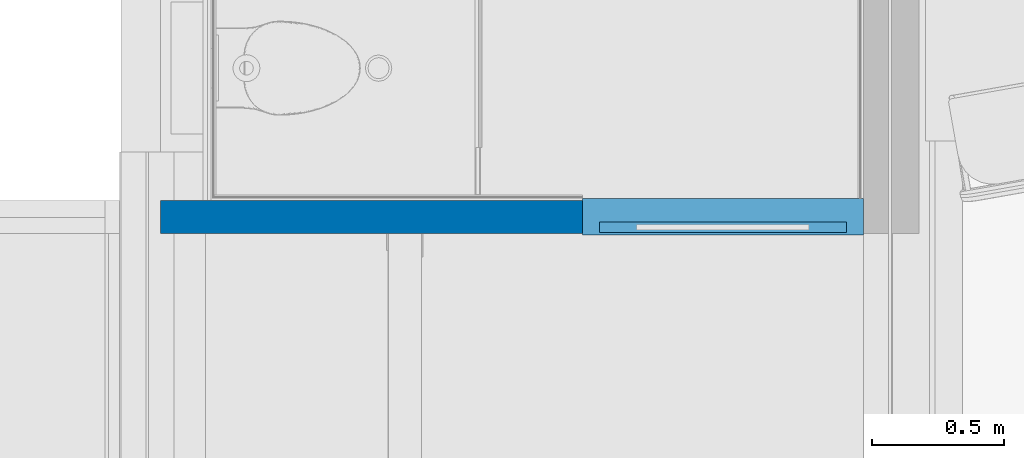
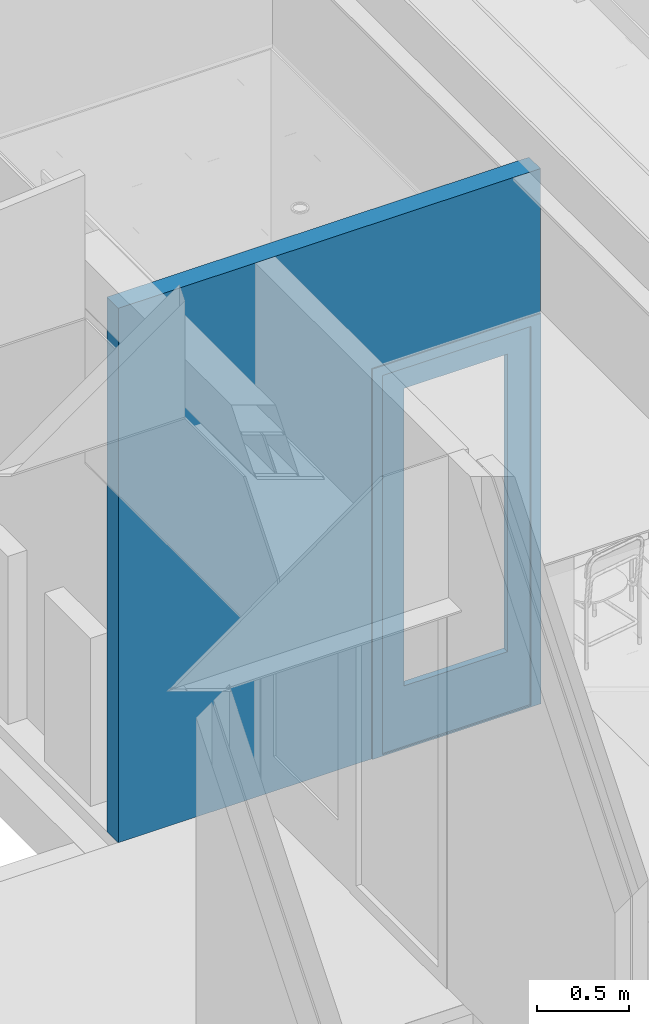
# One storey, part 4 of 260: 2 building element parts, 1 wall, 1 opening, 1 element without a shape of its own.
"""IFC2X3 building model written with IfcOpenShell, lengths in millimetres."""

import ifcopenshell
import ifcopenshell.guid

model = None  # the IFC model being written
_history = None  # IfcOwnerHistory: only IFC2X3 demands one
_inside = {}  # id of a spatial element -> (the spatial element, [elements in it])
_under = {}  # id of a project, library or spatial element -> (it, [spatial elements below it])
_declared = {}  # id of a project -> (the project, [libraries it declares])
_typed = {}  # id of a type object -> (the type object, [elements of that type])
_made_of = {}  # id of a material, layer set ... -> (it, [elements and type objects made of it])


def new_model(schema):
    """Start an empty IFC model of exactly this schema.

    Asked for "IFC4X3", IfcOpenShell would pick the latest addendum, in which some entities
    have other attributes; the version numbers below select the first issue.
    IFC2X3 requires an IfcOwnerHistory on every rooted entity: one is made here for all.
    """
    global model, _history
    if schema == "IFC4X3":
        model = ifcopenshell.file(schema_version=(4, 3, 0, 0))
    else:
        model = ifcopenshell.file(schema=schema)
    _inside.clear()
    _under.clear()
    _declared.clear()
    _typed.clear()
    _made_of.clear()
    _history = None
    if model.schema == "IFC2X3":
        org = make("IfcOrganization", Name="unknown")
        user = make(
            "IfcPersonAndOrganization",
            ThePerson=make("IfcPerson", FamilyName="unknown"),
            TheOrganization=org,
        )
        app = make(
            "IfcApplication",
            ApplicationDeveloper=org,
            Version="unknown",
            ApplicationFullName="unknown",
            ApplicationIdentifier="unknown",
        )
        _history = make(
            "IfcOwnerHistory",
            OwningUser=user,
            OwningApplication=app,
            ChangeAction="ADDED",
            CreationDate=0,
        )
    return model


def make(cls, **values):
    """One entity of the class cls with the attributes given. An attribute that is None is left unset."""
    return model.create_entity(
        cls, **{name: value for name, value in values.items() if value is not None}
    )


def entity(cls, *values):
    """Any entity or typed value of the class cls, its attributes in the order of the schema. None: left unset."""
    e = model.create_entity(cls)
    for i, value in enumerate(values):
        if value is not None:
            e[i] = value
    return e


def rooted(cls, **values):
    """An entity with a GlobalId (a new one), such as an element, a storey or a relation."""
    return make(cls, GlobalId=ifcopenshell.guid.new(), OwnerHistory=_history, **values)


def si_unit(unit_type, name, prefix=None):
    """IfcSIUnit, for example si_unit("LENGTHUNIT", "METRE", prefix="MILLI")."""
    return make("IfcSIUnit", UnitType=unit_type, Prefix=prefix, Name=name)


def converted_unit(unit_type, name, factor, base, dimensions=None, offset=None):
    """IfcConversionBasedUnit, such as the inch: factor (a typed value) times the base unit."""
    return make(
        "IfcConversionBasedUnit"
        if offset is None
        else "IfcConversionBasedUnitWithOffset",
        ConversionOffset=offset,
        Dimensions=None
        if dimensions is None
        else entity("IfcDimensionalExponents", *dimensions),
        UnitType=unit_type,
        Name=name,
        ConversionFactor=make(
            "IfcMeasureWithUnit", ValueComponent=factor, UnitComponent=base
        ),
    )


def derived_unit(unit_type, elements):
    """IfcDerivedUnit: a product of units, each with its exponent."""
    return make(
        "IfcDerivedUnit",
        Elements=[
            make("IfcDerivedUnitElement", Unit=unit, Exponent=power)
            for unit, power in elements
        ],
        UnitType=unit_type,
    )


def money_unit(currency):
    """IfcMonetaryUnit."""
    return make("IfcMonetaryUnit", Currency=currency)


def assignment(units):
    """IfcUnitAssignment: the units of a project."""
    return None if units is None else make("IfcUnitAssignment", Units=units)


def point(xyz):
    """IfcCartesianPoint."""
    return None if xyz is None else make("IfcCartesianPoint", Coordinates=xyz)


def direction(xyz):
    """IfcDirection."""
    return None if xyz is None else make("IfcDirection", DirectionRatios=xyz)


def frame(location, z_axis=None, x_axis=None):
    """IfcAxis2Placement3D, a coordinate frame: its origin and axes. An axis left out is left unset."""
    return make(
        "IfcAxis2Placement3D",
        Location=point(location),
        Axis=direction(z_axis),
        RefDirection=direction(x_axis),
    )


def origin_with_axes():
    """The frame at (0, 0, 0) with the z axis (0, 0, 1) and the x axis (1, 0, 0) written out."""
    return frame((0.0, 0.0, 0.0), z_axis=(0.0, 0.0, 1.0), x_axis=(1.0, 0.0, 0.0))


def place(relative_to, where):
    """IfcLocalPlacement: puts the frame where relative to a parent placement (None: the world)."""
    return make(
        "IfcLocalPlacement", PlacementRelTo=relative_to, RelativePlacement=where
    )


def context(
    kind, dimensions, precision=None, world=None, true_north=None, identifier=None
):
    """IfcGeometricRepresentationContext, for example the 3D "Model" context."""
    return make(
        "IfcGeometricRepresentationContext",
        ContextIdentifier=identifier,
        ContextType=kind,
        CoordinateSpaceDimension=dimensions,
        Precision=precision,
        WorldCoordinateSystem=world,
        TrueNorth=true_north,
    )


def subcontext(parent, identifier, kind, view, scale=None):
    """IfcGeometricRepresentationSubContext, for example "Body" below "Model"."""
    return make(
        "IfcGeometricRepresentationSubContext",
        ContextIdentifier=identifier,
        ContextType=kind,
        ParentContext=parent,
        TargetScale=scale,
        TargetView=view,
    )


def project(units=None, contexts=None):
    """IfcProject with its units and contexts."""
    return rooted(
        "IfcProject",
        Name="project",
        RepresentationContexts=contexts,
        UnitsInContext=assignment(units),
    )


def spatial(cls, under=None, at=None, **own):
    """A site, building, storey or space (cls), placed at a placement, below another one or the project."""
    s = rooted(cls, ObjectPlacement=at, **own)
    if under is not None:
        _under.setdefault(under.id(), (under, []))[1].append(s)
    return s


def faces_of(points, faces, orient=None, outer=None):
    """IfcFace entities. A face is a list of loops; a loop is a list of indices into points, from 0.

    orient and outer hold one flag for each loop. By default every Orientation is true, the
    first loop of a face is its IfcFaceOuterBound and the others are IfcFaceBound.
    """
    made = []
    for i, loops in enumerate(faces):
        bounds = []
        for j, loop in enumerate(loops):
            is_outer = j == 0 if outer is None else outer[i][j]
            bounds.append(
                make(
                    "IfcFaceOuterBound" if is_outer else "IfcFaceBound",
                    Bound=make("IfcPolyLoop", Polygon=[points[k] for k in loop]),
                    Orientation=True if orient is None else orient[i][j],
                )
            )
        made.append(make("IfcFace", Bounds=bounds))
    return made


def faceted_brep(points, faces, orient=None, outer=None, voids=None):
    """IfcFacetedBrep: a solid bounded by flat faces; with voids (closed shells), ...WithVoids."""
    shared = [point(p) for p in points]
    hull = make("IfcClosedShell", CfsFaces=faces_of(shared, faces, orient, outer))
    if voids is None:
        return make("IfcFacetedBrep", Outer=hull)
    return make(
        "IfcFacetedBrepWithVoids",
        Outer=hull,
        Voids=[
            make(cls, CfsFaces=faces_of(shared, fs, o, b)) for cls, fs, o, b in voids
        ],
    )


def shape(context_of_items, identifier, shape_type, items):
    """IfcShapeRepresentation: the items that make up one representation, for example the "Body"."""
    return make(
        "IfcShapeRepresentation",
        ContextOfItems=context_of_items,
        RepresentationIdentifier=identifier,
        RepresentationType=shape_type,
        Items=items,
    )


def source(mapping_origin, context_of_items, identifier, shape_type, items):
    """IfcRepresentationMap: a shape defined once, which mapped items show again and again."""
    return make(
        "IfcRepresentationMap",
        MappingOrigin=mapping_origin,
        MappedRepresentation=shape(context_of_items, identifier, shape_type, items),
    )


def transform(
    local_origin,
    x_axis=None,
    y_axis=None,
    z_axis=None,
    scale=None,
    scale2=None,
    scale3=None,
    uniform=True,
):
    """IfcCartesianTransformationOperator3D, or its non-uniform kind. x_axis, y_axis, z_axis: its Axis1, 2, 3."""
    if uniform:
        return make(
            "IfcCartesianTransformationOperator3D",
            Axis1=direction(x_axis),
            Axis2=direction(y_axis),
            LocalOrigin=point(local_origin),
            Scale=scale,
            Axis3=direction(z_axis),
        )
    return make(
        "IfcCartesianTransformationOperator3DnonUniform",
        Axis1=direction(x_axis),
        Axis2=direction(y_axis),
        LocalOrigin=point(local_origin),
        Scale=scale,
        Axis3=direction(z_axis),
        Scale2=scale2,
        Scale3=scale3,
    )


def mapped(mapping_source, mapping_target):
    """IfcMappedItem: shows the shape of a source again, moved by a transform."""
    return make(
        "IfcMappedItem", MappingSource=mapping_source, MappingTarget=mapping_target
    )


def material(Name=None, Category=None):
    """IfcMaterial."""
    return make("IfcMaterial", Name=Name, Category=Category)


def made_of(thing, what):
    """Note that an element or type object is made of a material, layer set ...; save() writes the relation."""
    if what is not None:
        _made_of.setdefault(what.id(), (what, []))[1].append(thing)
    return thing


def type_object(cls, material=None, **own):
    """A type object (cls), such as IfcWallType, which elements share."""
    return made_of(rooted(cls, **own), material)


def element(
    cls,
    number,
    at=None,
    inside=None,
    cuts=None,
    type_object=None,
    material=None,
    context=None,
    identifier="Body",
    shape_type=None,
    held_by="IfcProductDefinitionShape",
    body=None,
    shapes=None,
    **own,
):
    """One element of the class cls, such as IfcWall. Its Tag is "e" and its number.

    at: its placement. inside: the storey or other place that contains it. cuts: it is an
    opening in that element (IfcRelVoidsElement). A single representation is given by context,
    identifier, shape_type and body (its items); several are given by shapes. held_by: the class
    of the entity that holds the representations. save() writes the other relations.
    """
    e = rooted(cls, Tag="e%d" % number, ObjectPlacement=at, **own)
    if body is not None:
        shapes = [shape(context, identifier, shape_type, body)]
    if shapes is not None:
        e.Representation = make(held_by, Representations=shapes)
    if inside is not None:
        _inside.setdefault(inside.id(), (inside, []))[1].append(e)
    if cuts is not None:
        rooted(
            "IfcRelVoidsElement", RelatingBuildingElement=cuts, RelatedOpeningElement=e
        )
    if type_object is not None:
        _typed.setdefault(type_object.id(), (type_object, []))[1].append(e)
    return made_of(e, material)


def fill(opening, filler):
    """IfcRelFillsElement: the door or window that sits in an opening."""
    return rooted(
        "IfcRelFillsElement",
        RelatingOpeningElement=opening,
        RelatedBuildingElement=filler,
    )


def aggregate(whole, parts):
    """IfcRelAggregates: a whole, such as a stair, and the parts it consists of."""
    return rooted("IfcRelAggregates", RelatingObject=whole, RelatedObjects=parts)


def save(model, path):
    """Write the relations noted so far, then the file.

    IfcRelAggregates (storeys below a building ...), IfcRelContainedInSpatialStructure (elements
    in a storey), IfcRelDefinesByType, IfcRelAssociatesMaterial and IfcRelDeclares: one each for
    every whole, place, type object, material and project.
    """
    for whole, parts in _under.values():
        aggregate(whole, parts)
    for where, things in _inside.values():
        rooted(
            "IfcRelContainedInSpatialStructure",
            RelatedElements=things,
            RelatingStructure=where,
        )
    for kind, things in _typed.values():
        rooted("IfcRelDefinesByType", RelatedObjects=things, RelatingType=kind)
    for what, things in _made_of.values():
        rooted("IfcRelAssociatesMaterial", RelatedObjects=things, RelatingMaterial=what)
    for by, libraries in _declared.values():
        rooted("IfcRelDeclares", RelatingContext=by, RelatedDefinitions=libraries)
    model.write(path)


model = new_model("IFC2X3")

# Units and contexts
model_context = context("Model", 3, precision=0.01, world=origin_with_axes(), true_north=direction((0.0, 1.0)))
plan_context = context("Plan", 3, precision=0.01, world=origin_with_axes(), true_north=direction((0.0, 1.0)))
body_context = subcontext(model_context, "Body", "Model", "MODEL_VIEW")
ifc_project = project(units=[si_unit("LENGTHUNIT", "METRE", prefix="MILLI"), si_unit("AREAUNIT", "SQUARE_METRE"), si_unit("VOLUMEUNIT", "CUBIC_METRE"), converted_unit("PLANEANGLEUNIT", "DEGREE", entity("IfcPlaneAngleMeasure", 0.0174532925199), si_unit("PLANEANGLEUNIT", "RADIAN"), dimensions=[0, 0, 0, 0, 0, 0, 0]), money_unit("EUR"), converted_unit("TIMEUNIT", "Year", entity("IfcTimeMeasure", 31556926.0), si_unit("TIMEUNIT", "SECOND"), dimensions=[0, 0, 1, 0, 0, 0, 0]), si_unit("MASSUNIT", "GRAM", prefix="KILO"), si_unit("THERMODYNAMICTEMPERATUREUNIT", "DEGREE_CELSIUS"), si_unit("LUMINOUSINTENSITYUNIT", "LUMEN"), si_unit("ENERGYUNIT", "JOULE", prefix="MEGA"), derived_unit("THERMALCONDUCTANCEUNIT", [(si_unit("POWERUNIT", "WATT"), 1), (si_unit("LENGTHUNIT", "METRE"), -1), (si_unit("THERMODYNAMICTEMPERATUREUNIT", "KELVIN"), -1)]), derived_unit("SPECIFICHEATCAPACITYUNIT", [(si_unit("ENERGYUNIT", "JOULE"), 1), (si_unit("MASSUNIT", "GRAM", prefix="KILO"), -1), (si_unit("THERMODYNAMICTEMPERATUREUNIT", "KELVIN"), -1)]), derived_unit("MASSDENSITYUNIT", [(si_unit("MASSUNIT", "GRAM", prefix="KILO"), 1), (si_unit("VOLUMEUNIT", "CUBIC_METRE"), -1)])], contexts=[model_context, plan_context])

# Site, building, storey
site_placement = place(None, origin_with_axes())
site = spatial("IfcSite", under=ifc_project, at=site_placement, Name="Site", CompositionType="ELEMENT")
building_placement = place(site_placement, origin_with_axes())
building = spatial("IfcBuilding", under=site, at=building_placement, Name="Naam gebouw", CompositionType="ELEMENT")
storey_placement = place(building_placement, frame((0.0, 0.0, 3960.0), z_axis=(0.0, 0.0, 1.0), x_axis=(1.0, 0.0, 0.0)))
storey = spatial("IfcBuildingStorey", under=building, at=storey_placement, Name="verdieping", CompositionType="ELEMENT", Elevation=3960.0)

# Wall, opening, door, building element parts
ifc_material_1 = material(Name="ALG - LICHTE SCHEIDINGSWAND")
wall_type = type_object("IfcWallType", Name="ALG LSW 125 125", PredefinedType="NOTDEFINED")
wall_placement = place(storey_placement, frame((44445.0, 30074.9999277, 0.0), z_axis=(0.0, 0.0, 1.0), x_axis=(-1.0, 0.0, 0.0)))
wall = element("IfcWall", 1, at=wall_placement, inside=storey, type_object=wall_type, material=ifc_material_1, Name="22_GF 125 ECO DGS/2.75.2A", context=body_context, shape_type="Brep", body=[
    faceted_brep([(0.0, 0.0, 2600.0), (0.0, -125.0, 2600.0), (0.0, -125.0, 3560.0), (0.0, 0.0, 3560.0), (1064.0, -125.0, 2600.0), (1064.0, 0.0, 2600.0), (1064.0, -125.0, 0.0), (2660.0, -125.0, 0.0), (2660.0, -125.0, 3560.0), (2660.0, 0.0, 3560.0), (2660.0, 0.0, 0.0), (1064.0, 0.0, 0.0)], [[[0, 1, 2, 3]], [[4, 1, 0, 5]], [[4, 6, 7, 8, 2, 1]], [[8, 9, 3, 2]], [[5, 0, 3, 9, 10, 11]], [[6, 4, 5, 11]], [[6, 11, 10, 7]], [[9, 8, 7, 10]]]),
])
opening_placement = place(wall_placement, frame((532.0, 0.0, 0.0), z_axis=(0.0, 0.0, 1.0), x_axis=(1.0, 0.0, 0.0)))
opening = element("IfcOpeningElement", 2, at=opening_placement, cuts=wall, Name="32_02.04", context=body_context, shape_type="Brep", body=[
    faceted_brep([(532.0, -125.0, 2600.0), (532.0, -125.0, 0.0), (532.0, 257.0, 0.0), (532.0, 257.0, 2600.0), (-532.0, -125.0, 2600.0), (-532.0, -125.0, 0.0), (-532.0, 257.0, 0.0), (-532.0, 257.0, 2600.0)], [[[0, 1, 2, 3]], [[0, 4, 5, 1]], [[1, 5, 6, 2]], [[3, 2, 6, 7]], [[4, 0, 3, 7]], [[5, 4, 7, 6]]]),
])
door_style = type_object("IfcDoorStyle", Name="D1 25", ConstructionType="NOTDEFINED", OperationType="SINGLE_SWING_RIGHT", ParameterTakesPrecedence=False, Sizeable=False)
door_placement = place(opening_placement, frame((-532.0, 0.0, 0.0), z_axis=(0.0, 0.0, 1.0), x_axis=(1.0, 0.0, 0.0)))
door = element("IfcDoor", 3, at=door_placement, inside=storey, type_object=door_style, Name="32_02.04", ObjectType="DOOR", OverallHeight=2600.0, OverallWidth=1064.0)
fill(opening, door)
shared_shape_1 = source(origin_with_axes(), body_context, "Body", "Brep", [
    faceted_brep([(-467.0, -40.0, 10.0), (-442.0, -40.0, 10.0), (-442.0, -139.0, 10.0), (442.0, -139.0, 10.0), (442.0, -40.0, 10.0), (467.0, -40.0, 10.0), (467.0, 0.0, 10.0), (-467.0, 0.0, 10.0), (-467.0, -40.0, 0.0), (-442.0, -40.0, 0.0), (-442.0, -139.0, 0.0), (442.0, -139.0, 0.0), (442.0, -40.0, 0.0), (467.0, -40.0, 0.0), (467.0, 0.0, 0.0), (-467.0, 0.0, 0.0)], [[[0, 1, 2, 3, 4, 5, 6, 7]], [[1, 0, 8, 9]], [[10, 2, 1, 9]], [[2, 10, 11, 3]], [[3, 11, 12, 4]], [[5, 4, 12, 13]], [[13, 14, 6, 5]], [[15, 7, 6, 14]], [[8, 0, 7, 15]], [[9, 8, 15, 14, 13, 12, 11, 10]]]),
    faceted_brep([(-442.0, -50.0, 0.0), (-442.0, -50.0, 2510.0), (-442.0, -139.0, 2510.0), (-442.0, -139.0, 0.0), (-467.0, -50.0, 2510.0), (-467.0, -50.0, 0.0), (-467.0, 0.0, 2510.0), (-532.0, 0.0, 2510.0), (-532.0, -139.0, 2510.0), (-532.0, -139.0, 0.0), (-532.0, 0.0, 0.0), (-467.0, 0.0, 0.0)], [[[0, 1, 2, 3]], [[4, 1, 0, 5]], [[4, 6, 7, 8, 2, 1]], [[3, 2, 8, 9]], [[5, 0, 3, 9, 10, 11]], [[6, 4, 5, 11]], [[6, 11, 10, 7]], [[10, 9, 8, 7]]]),
    faceted_brep([(467.0, -50.0, 2510.0), (442.0, -50.0, 2510.0), (442.0, -139.0, 2510.0), (532.0, -139.0, 2510.0), (532.0, 0.0, 2510.0), (467.0, 0.0, 2510.0), (467.0, -50.0, 0.0), (442.0, -50.0, 0.0), (442.0, -139.0, 0.0), (532.0, -139.0, 0.0), (532.0, 0.0, 0.0), (467.0, 0.0, 0.0)], [[[0, 1, 2, 3, 4, 5]], [[1, 0, 6, 7]], [[1, 7, 8, 2]], [[3, 2, 8, 9]], [[4, 3, 9, 10]], [[11, 5, 4, 10]], [[0, 5, 11, 6]], [[6, 11, 10, 9, 8, 7]]]),
    faceted_brep([(-467.0, 0.0, 2535.0), (-467.0, 0.0, 2510.0), (-532.0, 0.0, 2510.0), (-532.0, 0.0, 2600.0), (532.0, 0.0, 2600.0), (532.0, 0.0, 2510.0), (467.0, 0.0, 2510.0), (467.0, 0.0, 2535.0), (-467.0, -50.0, 2535.0), (-467.0, -50.0, 2510.0), (-442.0, -50.0, 2510.0), (-442.0, -139.0, 2510.0), (-532.0, -139.0, 2510.0), (-532.0, -139.0, 2600.0), (532.0, -139.0, 2600.0), (532.0, -139.0, 2510.0), (467.0, -50.0, 2510.0), (442.0, -139.0, 2510.0), (442.0, -50.0, 2510.0), (467.0, -50.0, 2535.0)], [[[0, 1, 2, 3, 4, 5, 6, 7]], [[1, 0, 8, 9]], [[9, 10, 11, 12, 2, 1]], [[2, 12, 13, 3]], [[3, 13, 14, 4]], [[4, 14, 15, 5]], [[16, 6, 5, 15, 17, 18]], [[7, 6, 16, 19]], [[0, 7, 19, 8]], [[16, 18, 10, 9, 8, 19]], [[10, 18, 17, 11]], [[17, 15, 14, 13, 12, 11]]]),
])
building_element_part_1_placement = place(door_placement, origin_with_axes())
building_element_part_1 = element("IfcBuildingElementPart", 4, at=building_element_part_1_placement, context=body_context, shape_type="MappedRepresentation", body=[
    mapped(shared_shape_1, transform((532.0, 7.0, 0.0))),
])
ifc_material_2 = material(Name="Hout C")
shared_shape_2 = source(origin_with_axes(), body_context, "Body", "Brep", [
    faceted_brep([(467.0, -10.0, 10.0), (467.0, -50.0, 10.0), (-467.0, -50.0, 10.0), (-467.0, -10.0, 10.0), (467.0, -10.0, 2535.0), (467.0, -50.0, 2535.0), (-467.0, -50.0, 2535.0), (-326.397849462, -50.0, 2394.16334661), (326.397849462, -50.0, 2394.16334661), (326.397849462, -50.0, 412.390438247), (-326.397849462, -50.0, 412.390438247), (-467.0, -10.0, 2535.0), (-326.397849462, -10.0, 2394.16334661), (-326.397849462, -10.0, 412.390438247), (326.397849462, -10.0, 412.390438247), (326.397849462, -10.0, 2394.16334661)], [[[0, 1, 2, 3]], [[4, 5, 1, 0]], [[1, 5, 6, 2], [7, 8, 9, 10]], [[3, 2, 6, 11]], [[0, 3, 11, 4], [12, 13, 14, 15]], [[11, 6, 5, 4]], [[15, 8, 7, 12]], [[14, 9, 8, 15]], [[13, 10, 9, 14]], [[12, 7, 10, 13]]]),
])
building_element_part_2_placement = place(door_placement, origin_with_axes())
building_element_part_2 = element("IfcBuildingElementPart", 5, at=building_element_part_2_placement, material=ifc_material_2, Name="Hout C", context=body_context, shape_type="MappedRepresentation", body=[
    mapped(shared_shape_2, transform((532.0, 7.0, 0.0))),
])
aggregate(door, [building_element_part_1, building_element_part_2])

save(model, "model.ifc")
